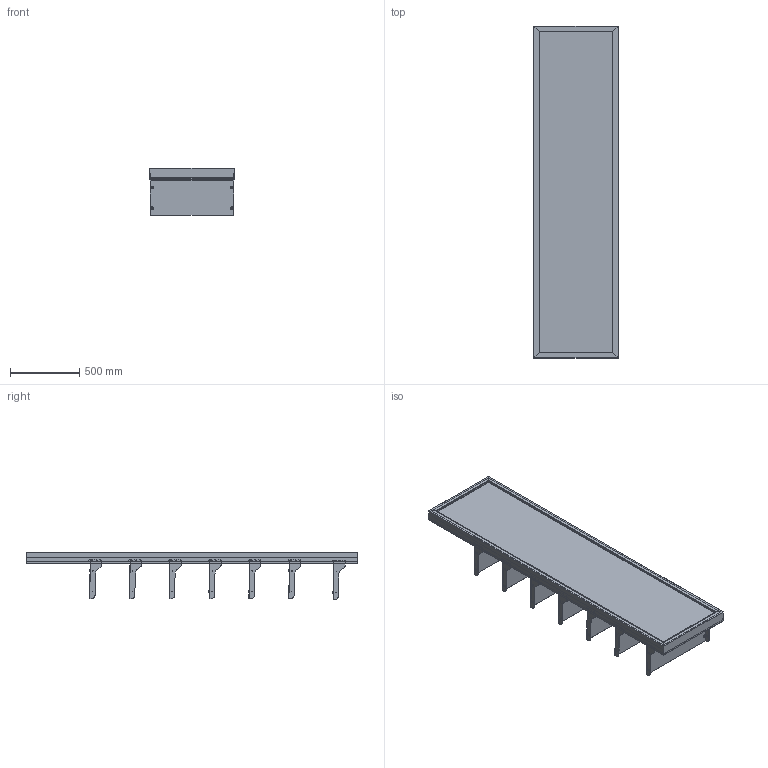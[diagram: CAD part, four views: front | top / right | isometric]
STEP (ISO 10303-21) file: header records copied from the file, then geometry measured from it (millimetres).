
FILE_DESCRIPTION (( 'STEP AP203' ), '1' );
FILE_NAME ('Narrow Illuminated Beauty Merchandising Display - Glass Shelving.STEP', '2026-03-30T13:31:07', ( '' ), ( '' ), 'SwSTEP 2.0', 'SolidWorks 2025', '' );
FILE_SCHEMA (( 'CONFIG_CONTROL_DESIGN' ));
Length unit declared in the file: millimetre
Products named in the file (11): 0001-31-SA29.STEP; 0001-31-114.STEP; Narrow Illuminated Beauty Merchandising Display - Glass Shelving; 0001-31-SA28 - 610W Glass Shelf.STEP; 0001-31-124.STEP; 0001-31-115.STEP; 0001-31-SA30.STEP; 0001-31-SA28 - 610W Glass Shelf_Assem5; 0000-31-113.STEP; 0001-31-GA01 - 610W Slotted Upright; 0001-31-123.STEP
Assembly tree (30 placements, depth 5):
  Narrow Illuminated Beauty Merchandising Display - Glass Shelving
    0001-31-GA01 - 610W Slotted Upright
    0001-31-SA28 - 610W Glass Shelf_Assem5  x7
      0001-31-SA28 - 610W Glass Shelf.STEP
        0001-31-SA29.STEP
          0000-31-113.STEP
          0001-31-114.STEP  x2
        0001-31-SA30.STEP
          0000-31-113.STEP
          0001-31-114.STEP  x2
        0001-31-115.STEP
        0001-31-123.STEP  x8
        0001-31-124.STEP  x4
Bounding box: 609.75 x 2400 x 340.44 mm (x, y, z)
Volume: 15413074.6 mm3; surface area: 10556156.7 mm2
Topology: 139 solids, 139 shells, 2588 faces, 6480 edges, 4152 vertices
Faces by surface type: plane 1658, cylinder 818, cone 112
Entity records: 19868 total; most frequent: CARTESIAN_POINT 3557, ORIENTED_EDGE 3282, DIRECTION 2711, EDGE_CURVE 1641, VECTOR 1471, LINE 1471, VERTEX_POINT 1082, AXIS2_PLACEMENT_3D 620
